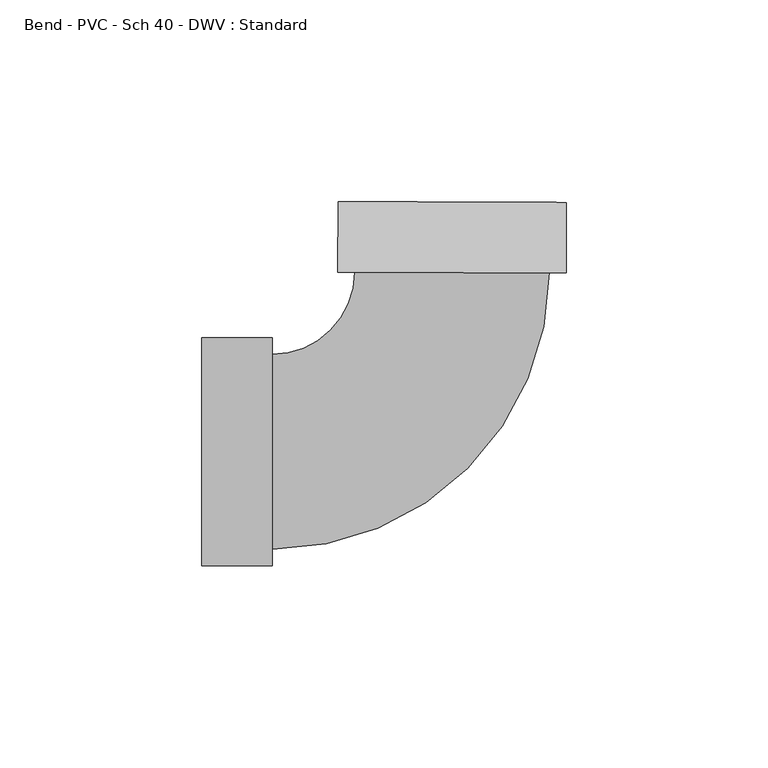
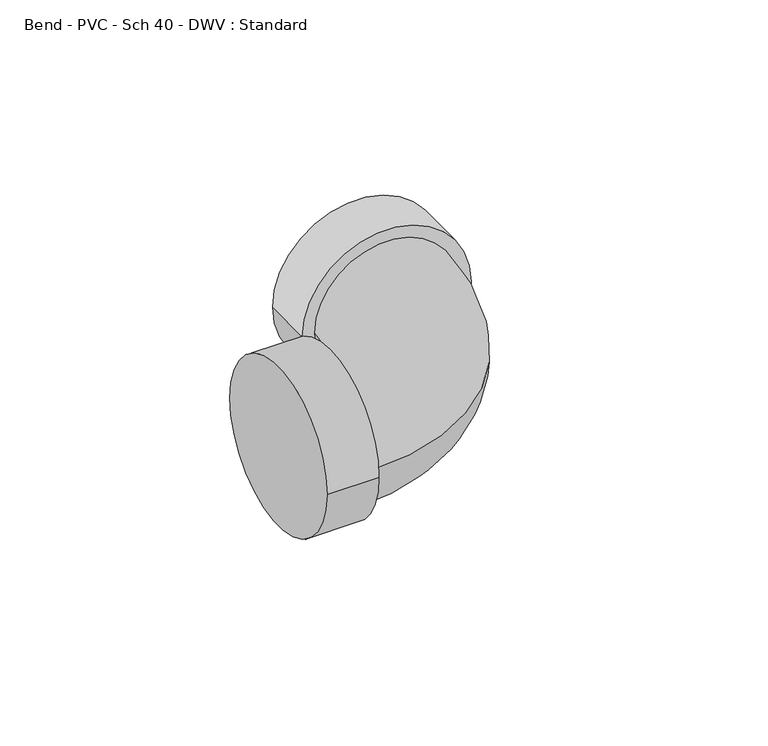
"""IFC4 building model written with IfcOpenShell, lengths in millimetres: pipe fitting geometry, Bend - PVC - Sch 40 - DWV : Standard."""

from ifc_helpers import new_model, si_unit, point, frame, origin, place, context, project, spatial, circle_curve, ellipse_curve, trimmed, source, transform, mapped, element, save
from ifc_brep_helpers import plane_surface, cylinder_surface, revolved_surface, advanced_brep


def bend_pvc_sch_40_dwv_standard_45c6c071(model_context):
    return source(origin(), model_context, "Body", "AdvancedBrep", [
        advanced_brep(
        [(-61.8998, -28.2829, 0.0), (-61.8998, 28.2829, 0.0), (-44.45, -28.2829, 0.0), (-44.45, 28.2829, 0.0), (-44.45, -24.13, 0.0), (-44.45, 24.13, 0.0), (-23.9640879, 44.5396665, 0.0), (24.2955766, 44.3597155, 0.0), (28.4484477, 44.3442302, 0.0), (-28.116959, 44.5551518, 0.0), (28.5135143, 61.7939089, 0.0), (-28.0518925, 62.0048305, 0.0)],
        [
            (0, 1, circle_curve(frame((-61.8998, 0.0, 0.0), z_axis=(-1.0, 0.0, 0.0), x_axis=(0.0, 1.0, 0.0)), 28.2829)),
            (1, 0, circle_curve(frame((-61.8998, 0.0, 0.0), z_axis=(-1.0, 0.0, 0.0), x_axis=(0.0, 1.0, 0.0)), 28.2829)),
            (2, 3, circle_curve(frame((-44.45, 0.0, 0.0), z_axis=(1.0, 0.0, 0.0), x_axis=(0.0, 1.0, 0.0)), 28.2829)),
            (3, 2, circle_curve(frame((-44.45, 0.0, 0.0), z_axis=(1.0, 0.0, 0.0), x_axis=(0.0, 1.0, 0.0)), 28.2829)),
            (4, 5, circle_curve(frame((-44.45, 0.0, 0.0), z_axis=(-1.0, 0.0, 0.0), x_axis=(0.0, 1.0, 0.0)), 24.13)),
            (5, 4, circle_curve(frame((-44.45, 0.0, 0.0), z_axis=(-1.0, 0.0, 0.0), x_axis=(0.0, 1.0, 0.0)), 24.13)),
            (0, 2),
            (3, 1),
            (6, 5, circle_curve(frame((-44.45, 44.6160545, 0.0), z_axis=(0.0, 0.0, -1.0), x_axis=(0.0, -1.0, 0.0)), 20.4860545)),
            (4, 7, circle_curve(frame((-44.45, 44.6160545, 0.0), z_axis=(0.0, 0.0, 1.0), x_axis=(0.0, -1.0, 0.0)), 68.7460545)),
            (7, 6, circle_curve(frame((0.1657444, 44.449691, 0.0), z_axis=(-0.0037287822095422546, -0.9999930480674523, 0.0), x_axis=(-0.9999930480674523, 0.0037287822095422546, 0.0)), 24.13)),
            (6, 7, circle_curve(frame((0.1657444, 44.449691, 0.0), z_axis=(-0.0037287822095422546, -0.9999930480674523, 0.0), x_axis=(-0.9999930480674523, 0.0037287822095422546, 0.0)), 24.13)),
            (8, 9, circle_curve(frame((0.1657444, 44.449691, 0.0), z_axis=(-0.0037287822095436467, -0.9999930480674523, 0.0), x_axis=(-0.9999930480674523, 0.0037287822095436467, 0.0)), 28.2829)),
            (9, 8, circle_curve(frame((0.1657444, 44.449691, 0.0), z_axis=(-0.0037287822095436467, -0.9999930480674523, 0.0), x_axis=(-0.9999930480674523, 0.0037287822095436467, 0.0)), 28.2829)),
            (10, 11, circle_curve(frame((0.2308109, 61.8993697, 0.0), z_axis=(0.0037287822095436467, 0.9999930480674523, 0.0), x_axis=(-0.9999930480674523, 0.0037287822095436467, 0.0)), 28.2829)),
            (11, 10, circle_curve(frame((0.2308109, 61.8993697, 0.0), z_axis=(0.0037287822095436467, 0.9999930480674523, 0.0), x_axis=(-0.9999930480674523, 0.0037287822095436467, 0.0)), 28.2829)),
            (8, 10),
            (11, 9),
        ],
        [
            plane_surface(frame((-61.8998, 0.0, 0.0), z_axis=(-1.0, 0.0, 0.0), x_axis=(0.0, 0.0, 1.0))),
            plane_surface(frame((-44.45, 0.0, 0.0), z_axis=(1.0, 0.0, 0.0), x_axis=(0.0, 0.0, 1.0))),
            cylinder_surface(frame((-61.8998, 0.0, 0.0), z_axis=(-1.0, 0.0, 0.0), x_axis=(0.0, 1.0, 0.0)), 28.2829),
            revolved_surface(trimmed(ellipse_curve(frame((-44.45, 0.0, 0.0), z_axis=(-1.0, 0.0, 0.0), x_axis=(0.0, 1.0, 0.0)), 24.13, 24.13), [point((-44.45, -24.13, 0.0))], [point((-44.45, 24.13, 0.0))], True, "CARTESIAN"), (-44.45, 44.6160545, 0.0), (0.0, 0.0, 1.0)),
            revolved_surface(trimmed(ellipse_curve(frame((-44.45, 0.0, 0.0), z_axis=(-1.0, 0.0, 0.0), x_axis=(0.0, 1.0, 0.0)), 24.13, 24.13), [point((-44.45, 24.13, 0.0))], [point((-44.45, -24.13, 0.0))], True, "CARTESIAN"), (-44.45, 44.6160545, 0.0), (0.0, 0.0, 1.0)),
            plane_surface(frame((0.1657444, 44.449691, 0.0), z_axis=(-0.0037287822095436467, -0.9999930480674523, 0.0), x_axis=(0.0, 0.0, 1.0))),
            plane_surface(frame((0.2308109, 61.8993697, 0.0), z_axis=(0.0037287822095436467, 0.9999930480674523, 0.0), x_axis=(0.0, 0.0, 1.0))),
            cylinder_surface(frame((0.1657444, 44.449691, 0.0), z_axis=(-0.0037287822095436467, -0.9999930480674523, 0.0), x_axis=(-0.9999930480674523, 0.0037287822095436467, 0.0)), 28.2829),
        ],
        [
            (0, [[1, 2]]),
            (1, [[3, 4], [5, 6]]),
            (2, [[-1, 7, -4, 8]]),
            (2, [[-2, -8, -3, -7]]),
            (3, [[9, -5, 10, 11]]),
            (4, [[-9, 12, -10, -6]]),
            (5, [[13, 14], [-11, -12]]),
            (6, [[15, 16]]),
            (7, [[-13, 17, -16, 18]]),
            (7, [[-14, -18, -15, -17]]),
        ],
    ),
    ])


if __name__ == "__main__":
    model = new_model("IFC4")
    model_context = context("Model", 3, world=origin())
    ifc_project = project(units=[si_unit("LENGTHUNIT", "METRE", prefix="MILLI")], contexts=[model_context])
    site = spatial("IfcSite", under=ifc_project)
    building = spatial("IfcBuilding", under=site)
    placement = place(None, origin())
    bend_pvc_sch_40_dwv_standard_shape = bend_pvc_sch_40_dwv_standard_45c6c071(model_context)
    element("IfcPipeFitting", 1, ObjectType="Bend - PVC - Sch 40 - DWV : Standard", at=placement, inside=building, context=model_context, shape_type="MappedRepresentation", body=[
        mapped(bend_pvc_sch_40_dwv_standard_shape, transform((0.0, 0.0, 0.0), x_axis=(1.0, 0.0, 0.0), y_axis=(0.0, 1.0, 0.0), z_axis=(0.0, 0.0, 1.0))),
    ])
    save(model, "model.ifc")
